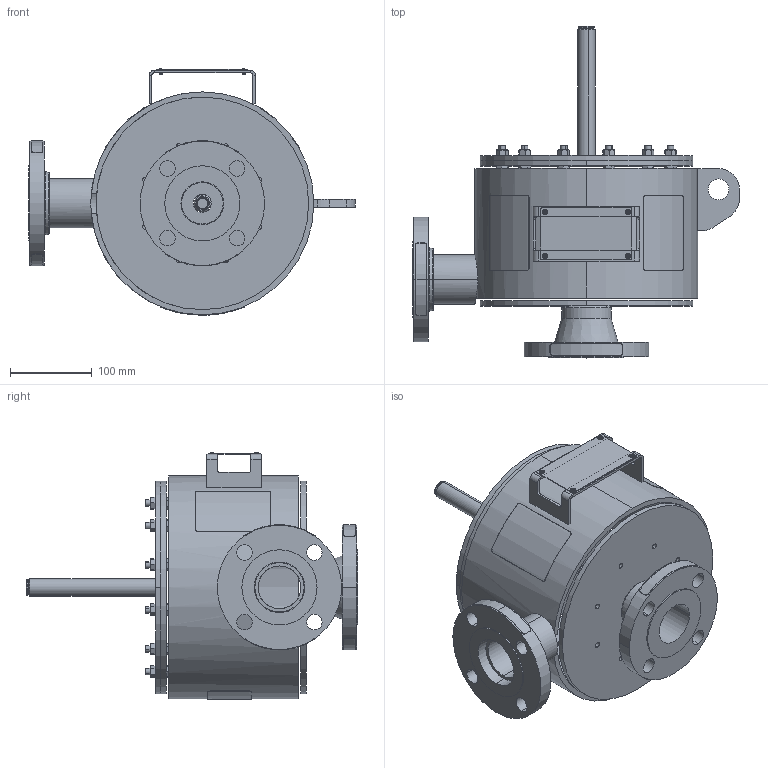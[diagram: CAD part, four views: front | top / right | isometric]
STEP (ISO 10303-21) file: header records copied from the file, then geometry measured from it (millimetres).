
FILE_DESCRIPTION (( 'STEP AP214' ), '1' );
FILE_NAME ('2IN-POPA-WEB.STEP', '2026-06-01T15:31:05', ( '' ), ( '' ), 'SwSTEP 2.0', 'SolidWorks 2023', '' );
FILE_SCHEMA (( 'AUTOMOTIVE_DESIGN' ));
Length unit declared in the file: inch
Products named in the file (27): VC-DCL-Outlet_CURVED-6.00 ID; TV-NAMEPLATE-0 Vent NAMEPLATE MOUNT_VC-ID-Name Plate Mount; Slip On Weld Flange_150-NPS_2.00-RF-SA350_LF2_CL1; TV-02PVPA-OPIP-0-A333-PIP2.0 Outlet Pipe; 2IN-POPA-WEB; Weld Neck Flange_2IN FLANGE; ADHESIVE-MAIN ASSEMBLY; LUG-002; VC-DCL-GENERAL-MADE IN AB_FLAT; VC-DCL-Logo 6.000x3.25_VC-DCL-20.00" ID; HEX NUT _MAIN ASSEMBLY_LID, VS, PS_0.3125-18_HNUT 0.3125-18-D-S; TV-03XX-PLG-0-316-P0.250 Tilt tube Plug_LID_TV-03XX-PLG-0-316-P0.250; TV-03POPA-CAN-0-A333-PIP10.0 Can; VC-DCL-POPA Remove_CURVED-10.75 ID; TV-03XX-RING-0-A516-70N-P0.250 CAN RING_TAPPED; VC-ID-STD-SIN Plate_VC-ID-RENDER-PVTA; 0.125 x 0.1250-9752A415-NAMEPLATE FASTNERS_97525A415-ENGAGED; TV-02POPA-BTM-0-A516-70N-P0.250 BOTTOM PLATE_TAPPED; TV-03XX-LID-0-A516-70N-P0.250 LID PLATE; TV-03XX-LID-0-W01 Lid Assembly_Standard; TV-02POPA-HOUS-0-W01 Housing Assembly; VC-DCL-POTA No Drop_CURVED-10.75 ID; VC-DCL-Inlet_CURVED-7.50 ID; TV-03XX-TTUB-0-316-PIP0.500 Tilt Tube_LID_For Lid; TV-02POPA-HOUS-0-W01 Housing Body Weldment; HEX BOLT _MAIN ASSEMBLY_LID, VS, PS_0.3125-18x1LG_HBOLT 0.3125-18x1x1-N; VC-DCL-GENERAL-LOGO_FLAT
Assembly tree (64 placements, depth 4):
  2IN-POPA-WEB
    TV-02POPA-HOUS-0-W01 Housing Assembly
      TV-02POPA-HOUS-0-W01 Housing Body Weldment
        TV-02POPA-BTM-0-A516-70N-P0.250 BOTTOM PLATE_TAPPED
        TV-03XX-RING-0-A516-70N-P0.250 CAN RING_TAPPED
        TV-NAMEPLATE-0 Vent NAMEPLATE MOUNT_VC-ID-Name Plate Mount
        LUG-002
        TV-03POPA-CAN-0-A333-PIP10.0 Can
      TV-02PVPA-OPIP-0-A333-PIP2.0 Outlet Pipe
      Weld Neck Flange_2IN FLANGE
      Slip On Weld Flange_150-NPS_2.00-RF-SA350_LF2_CL1
    TV-03XX-LID-0-W01 Lid Assembly_Standard
      TV-03XX-LID-0-A516-70N-P0.250 LID PLATE
      TV-03XX-TTUB-0-316-PIP0.500 Tilt Tube_LID_For Lid
      TV-03XX-PLG-0-316-P0.250 Tilt tube Plug_LID_TV-03XX-PLG-0-316-P0.250
    VC-ID-STD-SIN Plate_VC-ID-RENDER-PVTA
    HEX BOLT _MAIN ASSEMBLY_LID, VS, PS_0.3125-18x1LG_HBOLT 0.3125-18x1x1-N  x12
    HEX NUT _MAIN ASSEMBLY_LID, VS, PS_0.3125-18_HNUT 0.3125-18-D-S  x12
    ADHESIVE-MAIN ASSEMBLY  x12
    0.125 x 0.1250-9752A415-NAMEPLATE FASTNERS_97525A415-ENGAGED  x4
    VC-DCL-Inlet_CURVED-7.50 ID  x2
    VC-DCL-Outlet_CURVED-6.00 ID  x2
    VC-DCL-POPA Remove_CURVED-10.75 ID
    VC-DCL-POTA No Drop_CURVED-10.75 ID
    VC-DCL-GENERAL-LOGO_FLAT
    VC-DCL-GENERAL-MADE IN AB_FLAT
    VC-DCL-Logo 6.000x3.25_VC-DCL-20.00" ID
Bounding box: 400.05 x 406.46 x 301.84 mm (x, y, z)
Volume: 2442959.9 mm3; surface area: 844688.6 mm2
Topology: 61 solids, 61 shells, 1449 faces, 3129 edges, 1824 vertices
Faces by surface type: cone 552, cylinder 433, plane 351, torus 84, bspline 29
Entity records: 16778 total; most frequent: CARTESIAN_POINT 5181, DIRECTION 2379, ORIENTED_EDGE 2058, EDGE_CURVE 1029, AXIS2_PLACEMENT_3D 991, VERTEX_POINT 644, EDGE_LOOP 561, CIRCLE 506
